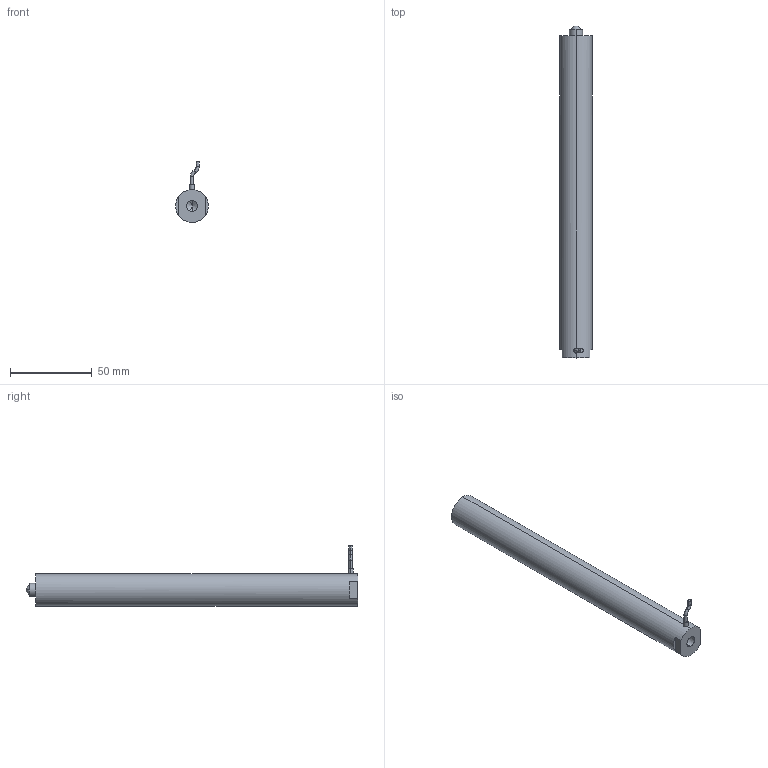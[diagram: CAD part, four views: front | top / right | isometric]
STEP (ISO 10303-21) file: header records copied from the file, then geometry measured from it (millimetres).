
FILE_DESCRIPTION (( 'STEP AP203' ), '1' );
FILE_NAME ('球头式200VS20.STEP', '2021-07-08T05:58:01', ( '微软用户' ), ( '微软公司' ), 'SwSTEP 2.0', 'SolidWorks 2016', '' );
FILE_SCHEMA (( 'CONFIG_CONTROL_DESIGN' ));
Products named in the file (1): ⑩芛宒200VS20
Bounding box: 20 x 203 x 37.06 mm (x, y, z)
Volume: 61666.9 mm3; surface area: 13478.7 mm2
Topology: 1 solids, 1 shells, 937 faces, 2534 edges, 1684 vertices
Faces by surface type: bspline 523, plane 301, cylinder 105, torus 4, sphere 2, cone 2
Entity records: 45766 total; most frequent: CARTESIAN_POINT 26852, ORIENTED_EDGE 5056, EDGE_CURVE 2528, DIRECTION 1896, B_SPLINE_CURVE_WITH_KNOTS 1726, VERTEX_POINT 1682, EDGE_LOOP 1026, ADVANCED_FACE 937
